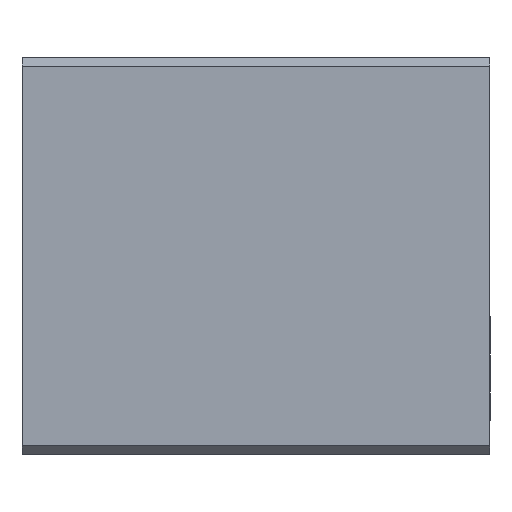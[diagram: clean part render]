
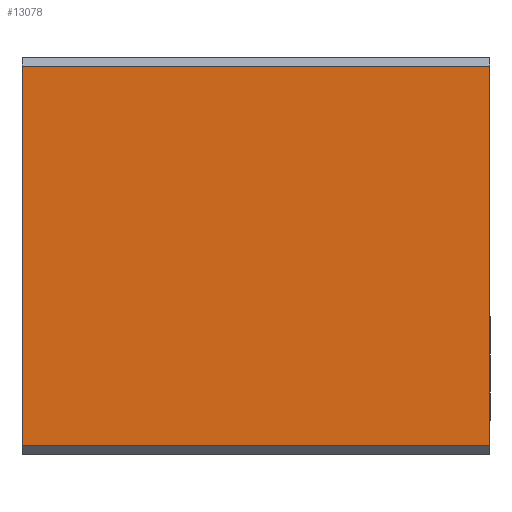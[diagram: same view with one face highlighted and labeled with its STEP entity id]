
A CAD part, front view. The second image highlights one B-rep face of the part: STEP entity #13078.
In plain terms, the highlighted planar face has unit normal (0, -1, 0).
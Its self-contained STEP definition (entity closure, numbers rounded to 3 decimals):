
#324 = CARTESIAN_POINT ( 'NONE',  ( 53., -22.5, -21.5 ) ) ;
#1249 = ORIENTED_EDGE ( 'NONE', *, *, #11358, .T. ) ;
#1631 = VECTOR ( 'NONE', #7711, 1000. ) ;
#2151 = VERTEX_POINT ( 'NONE', #3470 ) ;
#2222 = CARTESIAN_POINT ( 'NONE',  ( 53., -22.5, 21.5 ) ) ;
#2696 = ORIENTED_EDGE ( 'NONE', *, *, #10592, .T. ) ;
#2932 = LINE ( 'NONE', #5337, #3114 ) ;
#3114 = VECTOR ( 'NONE', #5273, 1000. ) ;
#3209 = EDGE_LOOP ( 'NONE', ( #8789, #2696, #8839, #1249 ) ) ;
#3470 = CARTESIAN_POINT ( 'NONE',  ( 0., -22.5, -21.5 ) ) ;
#3890 = VECTOR ( 'NONE', #7155, 1000. ) ;
#5273 = DIRECTION ( 'NONE',  ( -1., 0., 0. ) ) ;
#5298 = LINE ( 'NONE', #7164, #3890 ) ;
#5337 = CARTESIAN_POINT ( 'NONE',  ( 53., -22.5, 21.5 ) ) ;
#6360 = FACE_OUTER_BOUND ( 'NONE', #3209, .T. ) ;
#7155 = DIRECTION ( 'NONE',  ( 0., 0., -1. ) ) ;
#7164 = CARTESIAN_POINT ( 'NONE',  ( 0., -22.5, 22.5 ) ) ;
#7592 = CARTESIAN_POINT ( 'NONE',  ( 53., -22.5, 22.5 ) ) ;
#7711 = DIRECTION ( 'NONE',  ( 0., 0., -1. ) ) ;
#8167 = LINE ( 'NONE', #11298, #10050 ) ;
#8428 = EDGE_CURVE ( 'NONE', #9245, #9679, #10092, .T. ) ;
#8789 = ORIENTED_EDGE ( 'NONE', *, *, #13574, .T. ) ;
#8839 = ORIENTED_EDGE ( 'NONE', *, *, #8428, .F. ) ;
#9245 = VERTEX_POINT ( 'NONE', #2222 ) ;
#9679 = VERTEX_POINT ( 'NONE', #324 ) ;
#10050 = VECTOR ( 'NONE', #10972, 1000. ) ;
#10087 = DIRECTION ( 'NONE',  ( 0., 0., 1. ) ) ;
#10092 = LINE ( 'NONE', #7592, #1631 ) ;
#10101 = DIRECTION ( 'NONE',  ( 0., 1., 0. ) ) ;
#10124 = CARTESIAN_POINT ( 'NONE',  ( 53., -22.5, 22.5 ) ) ;
#10592 = EDGE_CURVE ( 'NONE', #2151, #9679, #8167, .T. ) ;
#10829 = PLANE ( 'NONE',  #11819 ) ;
#10972 = DIRECTION ( 'NONE',  ( 1., 0., 0. ) ) ;
#11298 = CARTESIAN_POINT ( 'NONE',  ( 53., -22.5, -21.5 ) ) ;
#11358 = EDGE_CURVE ( 'NONE', #9245, #12726, #2932, .T. ) ;
#11819 = AXIS2_PLACEMENT_3D ( 'NONE', #10124, #10101, #10087 ) ;
#12726 = VERTEX_POINT ( 'NONE', #13432 ) ;
#13078 = ADVANCED_FACE ( 'NONE', ( #6360 ), #10829, .F. ) ;
#13432 = CARTESIAN_POINT ( 'NONE',  ( 0., -22.5, 21.5 ) ) ;
#13574 = EDGE_CURVE ( 'NONE', #12726, #2151, #5298, .T. ) ;
